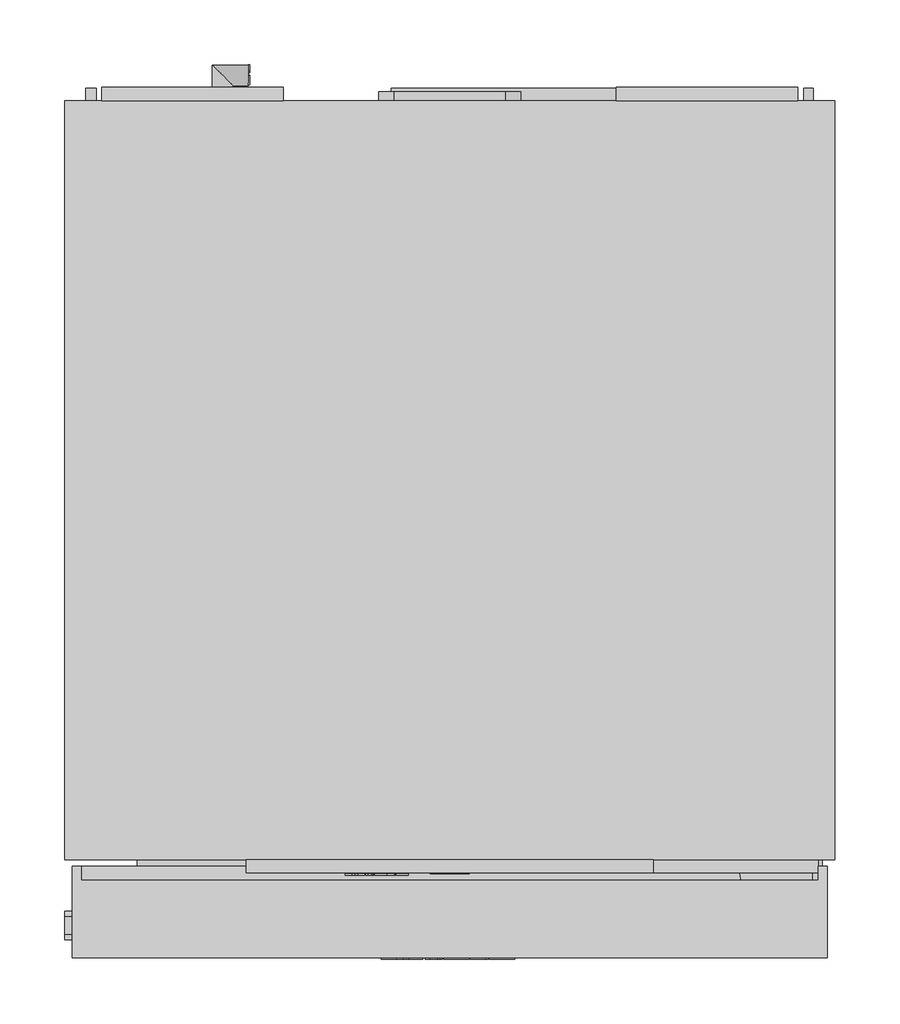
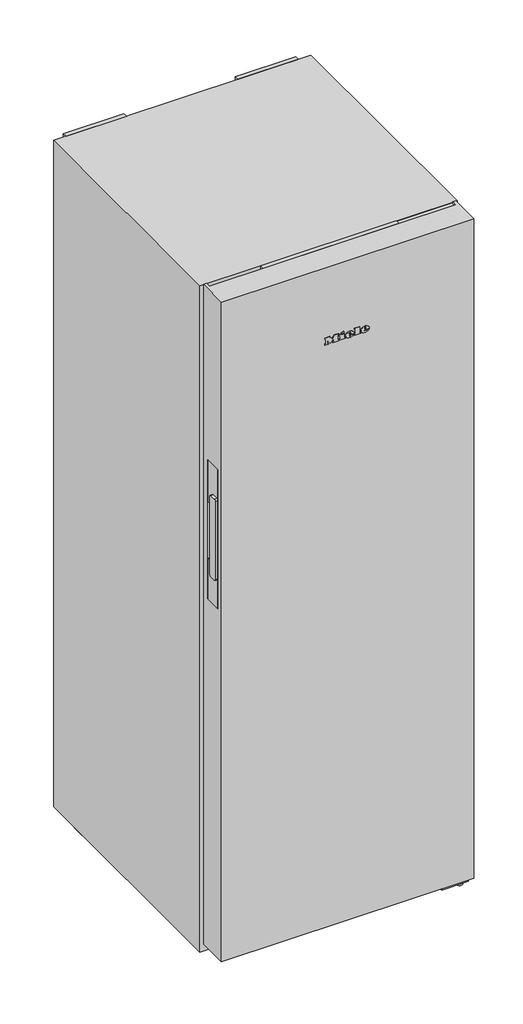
# Not in any storey: 1 proxy.
"""IFC4 building model written with IfcOpenShell, lengths in millimetres."""

from ifc_helpers import new_model, si_unit, origin, place, context, project, spatial, transform, mapped, element, save
from components import specialty_equipment_60e76cb6

model = new_model("IFC4")

# Units and contexts
model_context = context("Model", 3, world=origin())
ifc_project = project(units=[si_unit("LENGTHUNIT", "METRE", prefix="MILLI")], contexts=[model_context])

# Site, building
site = spatial("IfcSite", under=ifc_project)
building = spatial("IfcBuilding", under=site)

# Proxy
placement = place(None, origin())
specialty_equipment_shape = specialty_equipment_60e76cb6(model_context)
element("IfcBuildingElementProxy", 1, Name="12336550_EU1_FN4824C_WS : 37482434_EU1_12336550_FN4824C_WS", ObjectType="12336550_EU1_FN4824C_WS : 37482434_EU1_12336550_FN4824C_WS", at=placement, inside=building, context=model_context, shape_type="MappedRepresentation", body=[
    mapped(specialty_equipment_shape, transform((0.0, 0.0, 0.0), x_axis=(1.0, 0.0, 0.0), y_axis=(0.0, 1.0, 0.0), z_axis=(0.0, 0.0, 1.0))),
])

save(model, "model.ifc")
